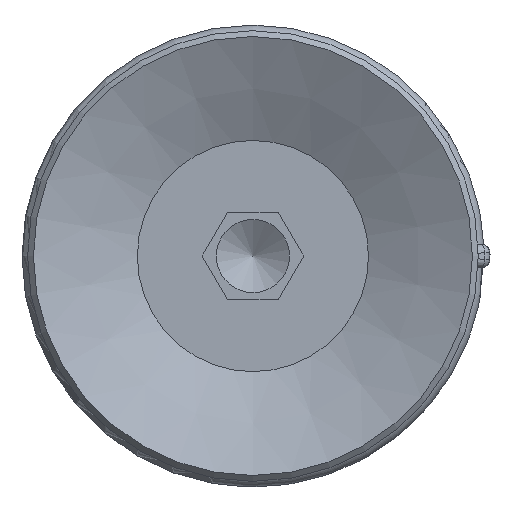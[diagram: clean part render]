
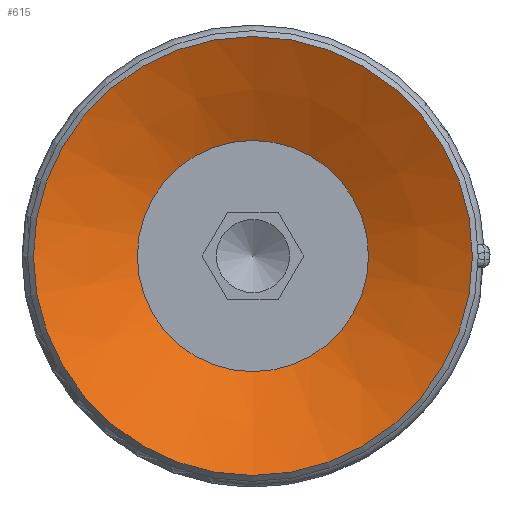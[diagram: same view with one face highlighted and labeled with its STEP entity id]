
A CAD part, front view. The second image highlights one B-rep face of the part: STEP entity #615.
In plain terms, the highlighted conical face has half-angle 64 degrees and reference radius 3.95 mm.
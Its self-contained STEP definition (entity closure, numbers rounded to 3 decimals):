
#615=ADVANCED_FACE('',(#893,#894),#895,.F.);
#893=FACE_BOUND('',#1290,.T.);
#894=FACE_OUTER_BOUND('',#1291,.T.);
#895=CONICAL_SURFACE('',#1292,3.95,1.117);
#1290=EDGE_LOOP('',(#2051));
#1291=EDGE_LOOP('',(#2052));
#1292=AXIS2_PLACEMENT_3D('',#2053,#2054,#2055);
#2051=ORIENTED_EDGE('',*,*,#2425,.F.);
#2052=ORIENTED_EDGE('',*,*,#2426,.T.);
#2053=CARTESIAN_POINT('',(0.0,-29.404,-47.168));
#2054=DIRECTION('',(-0.0,0.,1.0));
#2055=DIRECTION('',(0.0,-1.0,0.));
#2425=EDGE_CURVE('',#2782,#2782,#2783,.T.);
#2426=EDGE_CURVE('',#2784,#2784,#2785,.T.);
#2782=VERTEX_POINT('',#3740);
#2783=CIRCLE('',#3741,3.95);
#2784=VERTEX_POINT('',#3742);
#2785=CIRCLE('',#3743,7.5);
#3740=CARTESIAN_POINT('',(0.0,-33.354,-47.168));
#3741=AXIS2_PLACEMENT_3D('',#4145,#4146,#4147);
#3742=CARTESIAN_POINT('',(0.0,-36.904,-45.437));
#3743=AXIS2_PLACEMENT_3D('',#4148,#4149,#4150);
#4145=CARTESIAN_POINT('',(0.0,-29.404,-47.168));
#4146=DIRECTION('',(0.0,0.,1.0));
#4147=DIRECTION('',(0.0,-1.0,0.));
#4148=CARTESIAN_POINT('',(0.0,-29.404,-45.437));
#4149=DIRECTION('',(0.0,0.,1.0));
#4150=DIRECTION('',(0.0,-1.0,0.));
